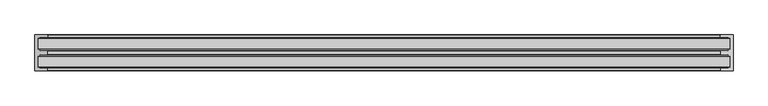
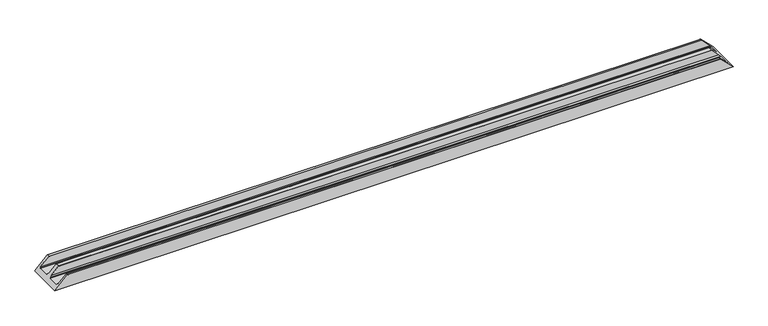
"""IFC4 building model written with IfcOpenShell, lengths in millimetres: proxy geometry, Weiku - Montante - Caixilho duplo 02.3.02.409 : Weiku - Montante - Caixilho duplo 02.3.02.409."""

import ifcopenshell
import ifcopenshell.guid

model = None  # the IFC model being written
_history = None  # IfcOwnerHistory: only IFC2X3 demands one
_inside = {}  # id of a spatial element -> (the spatial element, [elements in it])
_under = {}  # id of a project, library or spatial element -> (it, [spatial elements below it])
_declared = {}  # id of a project -> (the project, [libraries it declares])
_typed = {}  # id of a type object -> (the type object, [elements of that type])
_made_of = {}  # id of a material, layer set ... -> (it, [elements and type objects made of it])


def new_model(schema):
    """Start an empty IFC model of exactly this schema.

    Asked for "IFC4X3", IfcOpenShell would pick the latest addendum, in which some entities
    have other attributes; the version numbers below select the first issue.
    IFC2X3 requires an IfcOwnerHistory on every rooted entity: one is made here for all.
    """
    global model, _history
    if schema == "IFC4X3":
        model = ifcopenshell.file(schema_version=(4, 3, 0, 0))
    else:
        model = ifcopenshell.file(schema=schema)
    _inside.clear()
    _under.clear()
    _declared.clear()
    _typed.clear()
    _made_of.clear()
    _history = None
    if model.schema == "IFC2X3":
        org = make("IfcOrganization", Name="unknown")
        user = make(
            "IfcPersonAndOrganization",
            ThePerson=make("IfcPerson", FamilyName="unknown"),
            TheOrganization=org,
        )
        app = make(
            "IfcApplication",
            ApplicationDeveloper=org,
            Version="unknown",
            ApplicationFullName="unknown",
            ApplicationIdentifier="unknown",
        )
        _history = make(
            "IfcOwnerHistory",
            OwningUser=user,
            OwningApplication=app,
            ChangeAction="ADDED",
            CreationDate=0,
        )
    return model


def make(cls, **values):
    """One entity of the class cls with the attributes given. An attribute that is None is left unset."""
    return model.create_entity(
        cls, **{name: value for name, value in values.items() if value is not None}
    )


def rooted(cls, **values):
    """An entity with a GlobalId (a new one), such as an element, a storey or a relation."""
    return make(cls, GlobalId=ifcopenshell.guid.new(), OwnerHistory=_history, **values)


def si_unit(unit_type, name, prefix=None):
    """IfcSIUnit, for example si_unit("LENGTHUNIT", "METRE", prefix="MILLI")."""
    return make("IfcSIUnit", UnitType=unit_type, Prefix=prefix, Name=name)


def assignment(units):
    """IfcUnitAssignment: the units of a project."""
    return None if units is None else make("IfcUnitAssignment", Units=units)


def point(xyz):
    """IfcCartesianPoint."""
    return None if xyz is None else make("IfcCartesianPoint", Coordinates=xyz)


def direction(xyz):
    """IfcDirection."""
    return None if xyz is None else make("IfcDirection", DirectionRatios=xyz)


def frame(location, z_axis=None, x_axis=None):
    """IfcAxis2Placement3D, a coordinate frame: its origin and axes. An axis left out is left unset."""
    return make(
        "IfcAxis2Placement3D",
        Location=point(location),
        Axis=direction(z_axis),
        RefDirection=direction(x_axis),
    )


def origin():
    """The frame at (0, 0, 0) with its axes left unset."""
    return frame((0.0, 0.0, 0.0))


def place(relative_to, where):
    """IfcLocalPlacement: puts the frame where relative to a parent placement (None: the world)."""
    return make(
        "IfcLocalPlacement", PlacementRelTo=relative_to, RelativePlacement=where
    )


def context(
    kind, dimensions, precision=None, world=None, true_north=None, identifier=None
):
    """IfcGeometricRepresentationContext, for example the 3D "Model" context."""
    return make(
        "IfcGeometricRepresentationContext",
        ContextIdentifier=identifier,
        ContextType=kind,
        CoordinateSpaceDimension=dimensions,
        Precision=precision,
        WorldCoordinateSystem=world,
        TrueNorth=true_north,
    )


def project(units=None, contexts=None):
    """IfcProject with its units and contexts."""
    return rooted(
        "IfcProject",
        Name="project",
        RepresentationContexts=contexts,
        UnitsInContext=assignment(units),
    )


def spatial(cls, under=None, at=None, **own):
    """A site, building, storey or space (cls), placed at a placement, below another one or the project."""
    s = rooted(cls, ObjectPlacement=at, **own)
    if under is not None:
        _under.setdefault(under.id(), (under, []))[1].append(s)
    return s


def ellipse_curve(where, semi_axis1, semi_axis2):
    """IfcEllipse in the frame where."""
    return make(
        "IfcEllipse", Position=where, SemiAxis1=semi_axis1, SemiAxis2=semi_axis2
    )


def shape(context_of_items, identifier, shape_type, items):
    """IfcShapeRepresentation: the items that make up one representation, for example the "Body"."""
    return make(
        "IfcShapeRepresentation",
        ContextOfItems=context_of_items,
        RepresentationIdentifier=identifier,
        RepresentationType=shape_type,
        Items=items,
    )


def source(mapping_origin, context_of_items, identifier, shape_type, items):
    """IfcRepresentationMap: a shape defined once, which mapped items show again and again."""
    return make(
        "IfcRepresentationMap",
        MappingOrigin=mapping_origin,
        MappedRepresentation=shape(context_of_items, identifier, shape_type, items),
    )


def transform(
    local_origin,
    x_axis=None,
    y_axis=None,
    z_axis=None,
    scale=None,
    scale2=None,
    scale3=None,
    uniform=True,
):
    """IfcCartesianTransformationOperator3D, or its non-uniform kind. x_axis, y_axis, z_axis: its Axis1, 2, 3."""
    if uniform:
        return make(
            "IfcCartesianTransformationOperator3D",
            Axis1=direction(x_axis),
            Axis2=direction(y_axis),
            LocalOrigin=point(local_origin),
            Scale=scale,
            Axis3=direction(z_axis),
        )
    return make(
        "IfcCartesianTransformationOperator3DnonUniform",
        Axis1=direction(x_axis),
        Axis2=direction(y_axis),
        LocalOrigin=point(local_origin),
        Scale=scale,
        Axis3=direction(z_axis),
        Scale2=scale2,
        Scale3=scale3,
    )


def mapped(mapping_source, mapping_target):
    """IfcMappedItem: shows the shape of a source again, moved by a transform."""
    return make(
        "IfcMappedItem", MappingSource=mapping_source, MappingTarget=mapping_target
    )


def made_of(thing, what):
    """Note that an element or type object is made of a material, layer set ...; save() writes the relation."""
    if what is not None:
        _made_of.setdefault(what.id(), (what, []))[1].append(thing)
    return thing


def element(
    cls,
    number,
    at=None,
    inside=None,
    cuts=None,
    type_object=None,
    material=None,
    context=None,
    identifier="Body",
    shape_type=None,
    held_by="IfcProductDefinitionShape",
    body=None,
    shapes=None,
    **own,
):
    """One element of the class cls, such as IfcWall. Its Tag is "e" and its number.

    at: its placement. inside: the storey or other place that contains it. cuts: it is an
    opening in that element (IfcRelVoidsElement). A single representation is given by context,
    identifier, shape_type and body (its items); several are given by shapes. held_by: the class
    of the entity that holds the representations. save() writes the other relations.
    """
    e = rooted(cls, Tag="e%d" % number, ObjectPlacement=at, **own)
    if body is not None:
        shapes = [shape(context, identifier, shape_type, body)]
    if shapes is not None:
        e.Representation = make(held_by, Representations=shapes)
    if inside is not None:
        _inside.setdefault(inside.id(), (inside, []))[1].append(e)
    if cuts is not None:
        rooted(
            "IfcRelVoidsElement", RelatingBuildingElement=cuts, RelatedOpeningElement=e
        )
    if type_object is not None:
        _typed.setdefault(type_object.id(), (type_object, []))[1].append(e)
    return made_of(e, material)


def aggregate(whole, parts):
    """IfcRelAggregates: a whole, such as a stair, and the parts it consists of."""
    return rooted("IfcRelAggregates", RelatingObject=whole, RelatedObjects=parts)


def save(model, path):
    """Write the relations noted so far, then the file.

    IfcRelAggregates (storeys below a building ...), IfcRelContainedInSpatialStructure (elements
    in a storey), IfcRelDefinesByType, IfcRelAssociatesMaterial and IfcRelDeclares: one each for
    every whole, place, type object, material and project.
    """
    for whole, parts in _under.values():
        aggregate(whole, parts)
    for where, things in _inside.values():
        rooted(
            "IfcRelContainedInSpatialStructure",
            RelatedElements=things,
            RelatingStructure=where,
        )
    for kind, things in _typed.values():
        rooted("IfcRelDefinesByType", RelatedObjects=things, RelatingType=kind)
    for what, things in _made_of.values():
        rooted("IfcRelAssociatesMaterial", RelatedObjects=things, RelatingMaterial=what)
    for by, libraries in _declared.values():
        rooted("IfcRelDeclares", RelatingContext=by, RelatedDefinitions=libraries)
    model.write(path)


def plane_surface(at):
    """IfcPlane: the flat surface through the origin of the frame at, square to its z axis."""
    return make("IfcPlane", Position=at)


def cylinder_surface(at, radius):
    """IfcCylindricalSurface: all points at the distance radius from the z axis of the frame at."""
    return make("IfcCylindricalSurface", Position=at, Radius=radius)


def advanced_brep(points, edges, surfaces, faces):
    """IfcAdvancedBrep: a solid bounded by faces that lie on surfaces and meet in shared edges.

    An edge is (start, end): straight between two places in points (the first is 0);
    or (start, end, curve); or (start, end, curve, False) where it runs against its curve.
    A face is (place in surfaces, loops), or (place, loops, False) where it looks against
    its surface's normal. A loop lists edges by number (the first is 1), with a minus sign
    where the edge is run from its end to its start. The first loop is the outer one.
    """
    corners = [point(p) for p in points]
    vertices = [make("IfcVertexPoint", VertexGeometry=c) for c in corners]
    made = []
    for start, end, *more in edges:
        made.append(
            make(
                "IfcEdgeCurve",
                EdgeStart=vertices[start],
                EdgeEnd=vertices[end],
                EdgeGeometry=more[0] if more else make("IfcPolyline", Points=[corners[start], corners[end]]),
                SameSense=more[1] if len(more) > 1 else True,
            )
        )
    hull = []
    for where, loops, *sense in faces:
        bounds = []
        for j, loop in enumerate(loops):
            ring = [make("IfcOrientedEdge", EdgeElement=made[abs(k) - 1], Orientation=k > 0) for k in loop]
            bounds.append(
                make(
                    "IfcFaceOuterBound" if j == 0 else "IfcFaceBound",
                    Bound=make("IfcEdgeLoop", EdgeList=ring),
                    Orientation=True,
                )
            )
        hull.append(make("IfcAdvancedFace", Bounds=bounds, FaceSurface=surfaces[where], SameSense=sense[0] if sense else True))
    return make("IfcAdvancedBrep", Outer=make("IfcClosedShell", CfsFaces=hull))


def generic_models_645e7193(model_context):
    return source(origin(), model_context, "Body", "AdvancedBrep", [
        advanced_brep(
        [(-1510.0, 9.8, 18.2), (-1472.3, 9.8, 55.9), (1472.3, 9.8, 55.9), (1510.0, 9.8, 18.2), (-1512.5000079, 63.85, 15.6999921), (-1512.5000079, 15.05, 15.6999921), (1512.5000079, 15.05, 15.6999921), (1512.5000079, 63.85, 15.6999921), (-1472.3000055, 69.1, 55.8999945), (-1504.3700642, 69.1, 23.8299358), (1504.3700642, 69.1, 23.8299358), (1472.3000055, 69.1, 55.8999945), (-1471.8000055, 86.65, 56.3999945), (-1471.8000055, 69.6, 56.3999945), (1471.8000055, 69.6, 56.3999945), (1471.8000055, 86.65, 56.3999945), (-1504.4236827, 87.15, 23.7763173), (-1472.3000055, 87.15, 55.8999945), (1472.3000055, 87.15, 55.8999945), (1504.4236827, 87.15, 23.7763173), (-1528.2, 156.2000166, 0.0), (1528.2, 156.2000166, 0.0), (1528.2, 0.0, 0.0), (-1528.2, 0.0, 0.0), (1472.3, 0.0, 55.9), (-1472.3, 0.0, 55.9), (-1471.8, 9.3, 56.4), (-1471.8, 0.5, 56.4), (1471.8, 0.5, 56.4), (1471.8, 9.3, 56.4), (-1510.0, 15.05, 18.2), (-1510.0, 63.85, 18.2), (-1510.0000178, 92.3500166, 18.1999822), (-1512.5000079, 92.3500166, 15.6999921), (-1512.5000079, 141.1500166, 15.6999921), (-1510.0, 141.1500166, 18.2), (-1510.0, 146.4000166, 18.2), (-1472.3, 146.4000166, 55.9), (-1471.8, 146.9000166, 56.4), (-1471.8, 155.7000166, 56.4), (-1472.3, 156.2000166, 55.9), (1472.3, 156.2000166, 55.9), (1471.8, 155.7000166, 56.4), (1471.8, 146.9000166, 56.4), (1472.3, 146.4000166, 55.9), (1510.0, 146.4000166, 18.2), (1510.0, 141.1500166, 18.2), (1512.5000079, 141.1500166, 15.6999921), (1512.5000079, 92.3500166, 15.6999921), (1510.0000178, 92.3500166, 18.1999822), (1510.0, 63.85, 18.2), (1510.0, 15.05, 18.2)],
        [
            (0, 1),
            (1, 2),
            (2, 3),
            (3, 0),
            (4, 5),
            (5, 6),
            (6, 7),
            (7, 4),
            (8, 9),
            (9, 10),
            (10, 11),
            (11, 8),
            (12, 13),
            (13, 14),
            (14, 15),
            (15, 12),
            (16, 17),
            (17, 18),
            (18, 19),
            (19, 16),
            (20, 21),
            (21, 22),
            (22, 23),
            (23, 20),
            (22, 24),
            (24, 25),
            (25, 23),
            (26, 27),
            (27, 28),
            (28, 29),
            (29, 26),
            (0, 30),
            (30, 5),
            (4, 31),
            (31, 9),
            (8, 13, ellipse_curve(frame((-1472.3000055, 69.6, 55.8999945), z_axis=(-0.7071067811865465, 0.0, 0.7071067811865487), x_axis=(-0.7071067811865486, 0.0, -0.7071067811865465)), 0.7071068, 0.5)),
            (12, 17, ellipse_curve(frame((-1472.3000055, 86.65, 55.8999945), z_axis=(-0.7071067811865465, 0.0, 0.7071067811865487), x_axis=(-0.7071067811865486, 0.0, -0.7071067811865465)), 0.7071068, 0.5)),
            (16, 32),
            (32, 33),
            (33, 34),
            (34, 35),
            (35, 36),
            (36, 37),
            (37, 38, ellipse_curve(frame((-1472.3, 146.9000166, 55.9), z_axis=(-0.7071067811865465, 0.0, 0.7071067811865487), x_axis=(-0.7071067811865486, 0.0, -0.7071067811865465)), 0.7071068, 0.5)),
            (38, 39),
            (39, 40, ellipse_curve(frame((-1472.3, 155.7000166, 55.9), z_axis=(-0.7071067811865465, 0.0, 0.7071067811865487), x_axis=(-0.7071067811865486, 0.0, -0.7071067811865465)), 0.7071068, 0.5)),
            (40, 20),
            (25, 27, ellipse_curve(frame((-1472.3, 0.5, 55.9), z_axis=(-0.7071067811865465, 0.0, 0.7071067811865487), x_axis=(-0.7071067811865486, 0.0, -0.7071067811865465)), 0.7071068, 0.5)),
            (26, 1, ellipse_curve(frame((-1472.3, 9.3, 55.9), z_axis=(-0.7071067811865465, 0.0, 0.7071067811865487), x_axis=(-0.7071067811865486, 0.0, -0.7071067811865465)), 0.7071068, 0.5)),
            (2, 29, ellipse_curve(frame((1472.3, 9.3, 55.9), z_axis=(0.7071067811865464, 0.0, 0.7071067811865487), x_axis=(-0.7071067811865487, 0.0, 0.7071067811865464)), 0.7071068, 0.5)),
            (28, 24, ellipse_curve(frame((1472.3, 0.5, 55.9), z_axis=(0.7071067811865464, 0.0, 0.7071067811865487), x_axis=(-0.7071067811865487, 0.0, 0.7071067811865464)), 0.7071068, 0.5)),
            (21, 41),
            (41, 42, ellipse_curve(frame((1472.3, 155.7000166, 55.9), z_axis=(0.7071067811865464, 0.0, 0.7071067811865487), x_axis=(-0.7071067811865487, 0.0, 0.7071067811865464)), 0.7071068, 0.5)),
            (42, 43),
            (43, 44, ellipse_curve(frame((1472.3, 146.9000166, 55.9), z_axis=(0.7071067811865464, 0.0, 0.7071067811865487), x_axis=(-0.7071067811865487, 0.0, 0.7071067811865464)), 0.7071068, 0.5)),
            (44, 45),
            (45, 46),
            (46, 47),
            (47, 48),
            (48, 49),
            (49, 19),
            (18, 15, ellipse_curve(frame((1472.3000055, 86.65, 55.8999945), z_axis=(0.7071067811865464, 0.0, 0.7071067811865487), x_axis=(-0.7071067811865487, 0.0, 0.7071067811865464)), 0.7071068, 0.5)),
            (14, 11, ellipse_curve(frame((1472.3000055, 69.6, 55.8999945), z_axis=(0.7071067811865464, 0.0, 0.7071067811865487), x_axis=(-0.7071067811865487, 0.0, 0.7071067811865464)), 0.7071068, 0.5)),
            (10, 50),
            (50, 7),
            (6, 51),
            (51, 3),
            (51, 30),
            (50, 31),
            (49, 32),
            (48, 33),
            (47, 34),
            (46, 35),
            (45, 36),
            (44, 37),
            (38, 43),
            (42, 39),
            (41, 40),
        ],
        [
            plane_surface(frame((-1528.2, 9.8, 55.9), z_axis=(0.0, 1.0, 0.0), x_axis=(1.0, 0.0, 0.0))),
            plane_surface(frame((-1528.2, 15.05, 15.6999921), z_axis=(0.0, 0.0, 1.0), x_axis=(1.0, 0.0, 0.0))),
            plane_surface(frame((-1528.2, 69.1, 23.8299358), z_axis=(0.0, -1.0, 0.0), x_axis=(1.0, 0.0, 0.0))),
            plane_surface(frame((-1528.2, 69.6, 56.3999945), z_axis=(0.0, 0.0, 1.0), x_axis=(1.0, 0.0, 0.0))),
            plane_surface(frame((-1528.2, 87.15, 55.8999945), z_axis=(0.0, 1.0, 0.0), x_axis=(1.0, 0.0, 0.0))),
            plane_surface(frame((-1528.2, 156.2000166, 0.0), z_axis=(0.0, 0.0, -1.0), x_axis=(1.0, 0.0, 0.0))),
            plane_surface(frame((-1528.2, 0.0, 0.0), z_axis=(0.0, -1.0, 0.0), x_axis=(1.0, 0.0, 0.0))),
            plane_surface(frame((-1528.2, 0.5, 56.4), z_axis=(0.0, 0.0, 1.0), x_axis=(1.0, 0.0, 0.0))),
            plane_surface(frame((-1528.2, 0.0, 0.0), z_axis=(-0.7071067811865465, 0.0, 0.7071067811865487), x_axis=(0.0, 1.0, 0.0))),
            plane_surface(frame((1468.2, 0.0, 60.0), z_axis=(0.7071067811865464, 0.0, 0.7071067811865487), x_axis=(0.0, 1.0, 0.0))),
            plane_surface(frame((-1528.2, 9.8, 18.2), z_axis=(0.0, 0.0, 1.0), x_axis=(1.0, 0.0, 0.0))),
            plane_surface(frame((-1528.2, 15.05, 18.2), z_axis=(0.0, 1.0, 0.0), x_axis=(1.0, 0.0, 0.0))),
            plane_surface(frame((-1528.2, 63.85, 15.6999921), z_axis=(0.0, -1.0, 0.0), x_axis=(1.0, 0.0, 0.0))),
            plane_surface(frame((-1528.2, 63.85, 18.2), z_axis=(0.0, -0.7313537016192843, 0.6819983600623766), x_axis=(1.0, 0.0, 0.0))),
            cylinder_surface(frame((-1528.2, 86.65, 55.8999945), z_axis=(-1.0, 0.0, 0.0), x_axis=(0.0, 1.0, 0.0)), 0.5),
            cylinder_surface(frame((-1528.2, 0.5, 55.9), z_axis=(-1.0, 0.0, 0.0), x_axis=(0.0, 1.0, 0.0)), 0.5),
            plane_surface(frame((-1528.2, 87.15, 23.7763173), z_axis=(0.0, 0.7313537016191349, 0.6819983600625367), x_axis=(1.0, 0.0, 0.0))),
            plane_surface(frame((-1528.2, 92.3500166, 18.1999822), z_axis=(0.0, 1.0, 0.0), x_axis=(1.0, 0.0, 0.0))),
            plane_surface(frame((-1528.2, 92.3500166, 15.6999921), z_axis=(0.0, 0.0, 1.0), x_axis=(1.0, 0.0, 0.0))),
            plane_surface(frame((-1528.2, 141.1500166, 15.6999921), z_axis=(0.0, -1.0, 0.0), x_axis=(1.0, 0.0, 0.0))),
            plane_surface(frame((-1528.2, 141.1500166, 18.2), z_axis=(0.0, 0.0, 1.0), x_axis=(1.0, 0.0, 0.0))),
            plane_surface(frame((-1528.2, 146.4000166, 18.2), z_axis=(0.0, -1.0, 0.0), x_axis=(1.0, 0.0, 0.0))),
            plane_surface(frame((-1528.2, 146.9000166, 56.4), z_axis=(0.0, 0.0, 1.0), x_axis=(1.0, 0.0, 0.0))),
            cylinder_surface(frame((-1528.2, 155.7000166, 55.9), z_axis=(-1.0, 0.0, 0.0), x_axis=(0.0, -1.0, 0.0)), 0.5),
            plane_surface(frame((-1528.2, 156.2000166, 55.9), z_axis=(0.0, 1.0, 0.0), x_axis=(1.0, 0.0, 0.0))),
            cylinder_surface(frame((-1528.2, 9.3, 55.9), z_axis=(-1.0, 0.0, 0.0), x_axis=(0.0, 1.0, 0.0)), 0.5),
            cylinder_surface(frame((-1528.2, 69.6, 55.8999945), z_axis=(-1.0, 0.0, 0.0), x_axis=(0.0, 1.0, 0.0)), 0.5),
            cylinder_surface(frame((-1528.2, 146.9000166, 55.9), z_axis=(-1.0, 0.0, 0.0), x_axis=(0.0, 1.0, 0.0)), 0.5),
        ],
        [
            (0, [[1, 2, 3, 4]]),
            (1, [[5, 6, 7, 8]]),
            (2, [[9, 10, 11, 12]]),
            (3, [[13, 14, 15, 16]]),
            (4, [[17, 18, 19, 20]]),
            (5, [[21, 22, 23, 24]]),
            (6, [[-23, 25, 26, 27]]),
            (7, [[28, 29, 30, 31]]),
            (8, [[-1, 32, 33, -5, 34, 35, -9, 36, -13, 37, -17, 38, 39, 40, 41, 42, 43, 44, 45, 46, 47, -24, -27, 48, -28, 49]]),
            (9, [[-3, 50, -30, 51, -25, -22, 52, 53, 54, 55, 56, 57, 58, 59, 60, 61, -19, 62, -15, 63, -11, 64, 65, -7, 66, 67]]),
            (10, [[-32, -4, -67, 68]]),
            (11, [[-33, -68, -66, -6]]),
            (12, [[-34, -8, -65, 69]]),
            (13, [[-35, -69, -64, -10]]),
            (14, [[-37, -16, -62, -18]]),
            (15, [[-48, -26, -51, -29]]),
            (16, [[-38, -20, -61, 70]]),
            (17, [[-39, -70, -60, 71]]),
            (18, [[-40, -71, -59, 72]]),
            (19, [[-41, -72, -58, 73]]),
            (20, [[-42, -73, -57, 74]]),
            (21, [[-43, -74, -56, 75]]),
            (22, [[-45, 76, -54, 77]]),
            (23, [[-46, -77, -53, 78]]),
            (24, [[-21, -47, -78, -52]]),
            (25, [[-49, -31, -50, -2]]),
            (26, [[-36, -12, -63, -14]]),
            (27, [[-44, -75, -55, -76]]),
        ],
    ),
    ])


if __name__ == "__main__":
    model = new_model("IFC4")
    model_context = context("Model", 3, world=origin())
    ifc_project = project(units=[si_unit("LENGTHUNIT", "METRE", prefix="MILLI")], contexts=[model_context])
    site = spatial("IfcSite", under=ifc_project)
    building = spatial("IfcBuilding", under=site)
    placement = place(None, origin())
    generic_models_shape = generic_models_645e7193(model_context)
    element("IfcBuildingElementProxy", 1, Name="Weiku - Montante - Caixilho duplo 02.3.02.409 : Weiku - Montante - Caixilho duplo 02.3.02.409", ObjectType="Weiku - Montante - Caixilho duplo 02.3.02.409 : Weiku - Montante - Caixilho duplo 02.3.02.409", at=placement, inside=building, context=model_context, shape_type="MappedRepresentation", body=[
        mapped(generic_models_shape, transform((0.0, 0.0, 0.0), x_axis=(1.0, 0.0, 0.0), y_axis=(0.0, 1.0, 0.0), z_axis=(0.0, 0.0, 1.0))),
    ])
    save(model, "model.ifc")
